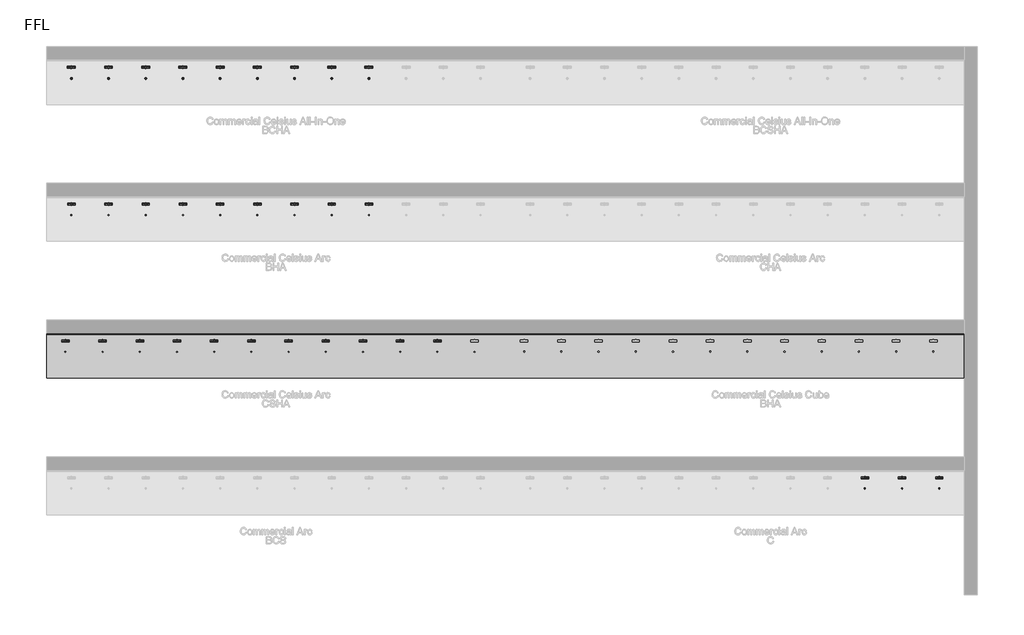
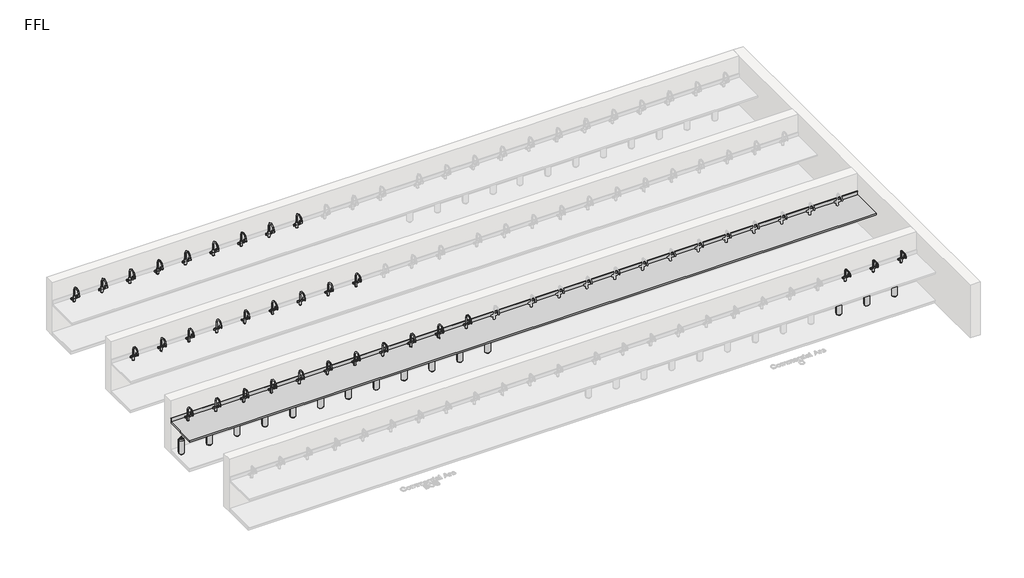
# One storey, part 2 of 9: 64 flow terminals, 1 furniture element.
"""IFC4 building model written with IfcOpenShell, lengths in millimetres."""

from ifc_helpers import new_model, si_unit, frame, origin, place, context, project, spatial, polyline, circle_curve, transform, mapped, element, save
from ifc_brep_helpers import plane_surface, revolved_surface, advanced_brep
from components import flow_terminal_100_people_nickel_0dc622b1, bright_chrome_d1e259f6, bright_chrome_ca6152f3, co2_gas_cylinder_20234e14, bright_chrome_d5fbbf34

model = new_model("IFC4")

# Units and contexts
model_context = context("Model", 3, world=origin())
ifc_project = project(units=[si_unit("LENGTHUNIT", "METRE", prefix="MILLI")], contexts=[model_context])

# Site, building, storey
site = spatial("IfcSite", under=ifc_project)
building = spatial("IfcBuilding", under=site)
storey = spatial("IfcBuildingStorey", under=building, Name="FFL", Elevation=0.0)

# Flow terminals
placement = place(None, origin())
flow_terminal_100_people_nickel_shape = flow_terminal_100_people_nickel_0dc622b1(model_context)
element("IfcFlowTerminal", 1, ObjectType="PlumFixt_Zip Commercial_Celsius Arc_CSHA : 100 People - Bright Chrome", at=placement, inside=storey, context=model_context, shape_type="MappedRepresentation", body=[
    mapped(flow_terminal_100_people_nickel_shape, transform((-6590.7352929, 2062.7393304, 0.0), x_axis=(1.0, 0.0, 0.0), y_axis=(0.0, 1.0, 0.0), z_axis=(0.0, 0.0, 1.0))),
])
element("IfcFlowTerminal", 2, ObjectType="PlumFixt_Zip Commercial_Celsius Arc_CSHA : 100 People - Bright Chrome", at=placement, inside=storey, context=model_context, shape_type="MappedRepresentation", body=[
    mapped(flow_terminal_100_people_nickel_shape, transform((-3590.7352929, 2062.7393304, 0.0), x_axis=(1.0, 0.0, 0.0), y_axis=(0.0, 1.0, 0.0), z_axis=(0.0, 0.0, 1.0))),
])
element("IfcFlowTerminal", 3, ObjectType="PlumFixt_Zip Commercial_Celsius Arc_CSHA : 100 People - Brushed Chrome", at=placement, inside=storey, context=model_context, shape_type="MappedRepresentation", body=[
    mapped(flow_terminal_100_people_nickel_shape, transform((-5840.7352929, 2062.7393304, 0.0), x_axis=(1.0, 0.0, 0.0), y_axis=(0.0, 1.0, 0.0), z_axis=(0.0, 0.0, 1.0))),
])
element("IfcFlowTerminal", 4, ObjectType="PlumFixt_Zip Commercial_Celsius Arc_CSHA : 100 People - Brushed Gold", at=placement, inside=storey, context=model_context, shape_type="MappedRepresentation", body=[
    mapped(flow_terminal_100_people_nickel_shape, transform((-5090.7352929, 2062.7393304, 0.0), x_axis=(1.0, 0.0, 0.0), y_axis=(0.0, 1.0, 0.0), z_axis=(0.0, 0.0, 1.0))),
])
element("IfcFlowTerminal", 5, ObjectType="PlumFixt_Zip Commercial_Celsius Arc_CSHA : 100 People - Brushed Nickel", at=placement, inside=storey, context=model_context, shape_type="MappedRepresentation", body=[
    mapped(flow_terminal_100_people_nickel_shape, transform((-4340.7352929, 2062.7393304, 0.0), x_axis=(1.0, 0.0, 0.0), y_axis=(0.0, 1.0, 0.0), z_axis=(0.0, 0.0, 1.0))),
])
element("IfcFlowTerminal", 6, ObjectType="PlumFixt_Zip Commercial_Celsius Arc_CSHA : 100 People - Gloss Black", at=placement, inside=storey, context=model_context, shape_type="MappedRepresentation", body=[
    mapped(flow_terminal_100_people_nickel_shape, transform((-2840.7352929, 2062.7393304, 0.0), x_axis=(1.0, 0.0, 0.0), y_axis=(0.0, 1.0, 0.0), z_axis=(0.0, 0.0, 1.0))),
])
element("IfcFlowTerminal", 7, ObjectType="PlumFixt_Zip Commercial_Celsius Arc_BHA : 100 People - Gold", at=placement, inside=storey, context=model_context, shape_type="MappedRepresentation", body=[
    mapped(flow_terminal_100_people_nickel_shape, transform((-1970.7352929, 4822.7393304, 0.0), x_axis=(1.0, 0.0, 0.0), y_axis=(0.0, 1.0, 0.0), z_axis=(0.0, 0.0, 1.0))),
])
element("IfcFlowTerminal", 8, ObjectType="PlumFixt_Zip Commercial_Celsius Arc_CSHA : 100 People - Gold", at=placement, inside=storey, context=model_context, shape_type="MappedRepresentation", body=[
    mapped(flow_terminal_100_people_nickel_shape, transform((-2090.7352929, 2062.7393304, 0.0), x_axis=(1.0, 0.0, 0.0), y_axis=(0.0, 1.0, 0.0), z_axis=(0.0, 0.0, 1.0))),
])
element("IfcFlowTerminal", 9, ObjectType="PlumFixt_Zip Commercial_Celsius Arc_BHA : 100 People - Gunmetal", at=placement, inside=storey, context=model_context, shape_type="MappedRepresentation", body=[
    mapped(flow_terminal_100_people_nickel_shape, transform((-1220.7352929, 4822.7393304, 0.0), x_axis=(1.0, 0.0, 0.0), y_axis=(0.0, 1.0, 0.0), z_axis=(0.0, 0.0, 1.0))),
])
element("IfcFlowTerminal", 10, ObjectType="PlumFixt_Zip Commercial_Celsius Arc_CSHA : 100 People - Gunmetal", at=placement, inside=storey, context=model_context, shape_type="MappedRepresentation", body=[
    mapped(flow_terminal_100_people_nickel_shape, transform((-1340.7352929, 2062.7393304, 0.0), x_axis=(1.0, 0.0, 0.0), y_axis=(0.0, 1.0, 0.0), z_axis=(0.0, 0.0, 1.0))),
])
element("IfcFlowTerminal", 11, ObjectType="PlumFixt_Zip Commercial_Celsius Arc_BHA : 100 People - Matte Black", at=placement, inside=storey, context=model_context, shape_type="MappedRepresentation", body=[
    mapped(flow_terminal_100_people_nickel_shape, transform((-470.7352929, 4822.7393304, 0.0), x_axis=(1.0, 0.0, 0.0), y_axis=(0.0, 1.0, 0.0), z_axis=(0.0, 0.0, 1.0))),
])
element("IfcFlowTerminal", 12, ObjectType="PlumFixt_Zip Commercial_Celsius Arc_CSHA : 100 People - Matte Black", at=placement, inside=storey, context=model_context, shape_type="MappedRepresentation", body=[
    mapped(flow_terminal_100_people_nickel_shape, transform((-590.7352929, 2062.7393304, 0.0), x_axis=(1.0, 0.0, 0.0), y_axis=(0.0, 1.0, 0.0), z_axis=(0.0, 0.0, 1.0))),
])
element("IfcFlowTerminal", 13, ObjectType="PlumFixt_Zip Commercial_Celsius Arc_CSHA : 100 People - Nickel", at=placement, inside=storey, context=model_context, shape_type="MappedRepresentation", body=[
    mapped(flow_terminal_100_people_nickel_shape, transform((159.2647071, 2062.7393304, 0.0), x_axis=(1.0, 0.0, 0.0), y_axis=(0.0, 1.0, 0.0), z_axis=(0.0, 0.0, 1.0))),
])
element("IfcFlowTerminal", 14, ObjectType="PlumFixt_Zip Commercial_Celsius Arc_CSHA : 100 People - Platinum", at=placement, inside=storey, context=model_context, shape_type="MappedRepresentation", body=[
    mapped(flow_terminal_100_people_nickel_shape, transform((909.2647071, 2062.7393304, 0.0), x_axis=(1.0, 0.0, 0.0), y_axis=(0.0, 1.0, 0.0), z_axis=(0.0, 0.0, 1.0))),
])
element("IfcFlowTerminal", 15, ObjectType="PlumFixt_Zip Commercial_Celsius Cube_CSHA : 100 People - Platinum", at=placement, inside=storey, context=model_context, shape_type="MappedRepresentation", body=[
    mapped(flow_terminal_100_people_nickel_shape, transform((10279.2647071, -697.2606696, 0.0), x_axis=(1.0, 0.0, 0.0), y_axis=(0.0, 1.0, 0.0), z_axis=(0.0, 0.0, 1.0))),
])
element("IfcFlowTerminal", 16, ObjectType="PlumFixt_Zip Commercial_Celsius Arc_CSHA : 100 People - Rose Gold", at=placement, inside=storey, context=model_context, shape_type="MappedRepresentation", body=[
    mapped(flow_terminal_100_people_nickel_shape, transform((1659.2647071, 2062.7393304, 0.0), x_axis=(1.0, 0.0, 0.0), y_axis=(0.0, 1.0, 0.0), z_axis=(0.0, 0.0, 1.0))),
])
element("IfcFlowTerminal", 17, ObjectType="PlumFixt_Zip Commercial_Celsius Cube_CSHA : 100 People - Rose Gold", at=placement, inside=storey, context=model_context, shape_type="MappedRepresentation", body=[
    mapped(flow_terminal_100_people_nickel_shape, transform((11029.2647071, -697.2606696, 0.0), x_axis=(1.0, 0.0, 0.0), y_axis=(0.0, 1.0, 0.0), z_axis=(0.0, 0.0, 1.0))),
])
bright_chrome_shape = bright_chrome_d1e259f6(model_context)
element("IfcFlowTerminal", 18, ObjectType="z_PlumFixt_Zip_Celsius All-In-One : Bright Chrome", at=placement, inside=storey, context=model_context, shape_type="MappedRepresentation", body=[
    mapped(bright_chrome_shape, transform((-6470.7352929, 7621.7393304, 900.0), x_axis=(1.0, 0.0, 0.0), y_axis=(0.0, 1.0, 0.0), z_axis=(0.0, 0.0, 1.0))),
])
bright_chrome_2_shape = bright_chrome_ca6152f3(model_context)
element("IfcFlowTerminal", 19, ObjectType="z_PlumFixt_Zip_Celsius Arc : Bright Chrome", at=placement, inside=storey, context=model_context, shape_type="MappedRepresentation", body=[
    mapped(bright_chrome_2_shape, transform((-6470.7352929, 4849.4893304, 900.0), x_axis=(1.0, 0.0, 0.0), y_axis=(0.0, 1.0, 0.0), z_axis=(0.0, 0.0, 1.0))),
])
element("IfcFlowTerminal", 20, ObjectType="z_PlumFixt_Zip_Celsius Arc : Bright Chrome", at=placement, inside=storey, context=model_context, shape_type="MappedRepresentation", body=[
    mapped(bright_chrome_2_shape, transform((-6590.7352929, 2089.4893304, 900.0), x_axis=(1.0, 0.0, 0.0), y_axis=(0.0, 1.0, 0.0), z_axis=(0.0, 0.0, 1.0))),
])
element("IfcFlowTerminal", 21, ObjectType="z_PlumFixt_Zip_Celsius Arc : Bright Chrome", at=placement, inside=storey, context=model_context, shape_type="MappedRepresentation", body=[
    mapped(bright_chrome_2_shape, transform((-3590.7352929, 2089.4893304, 900.0), x_axis=(1.0, 0.0, 0.0), y_axis=(0.0, 1.0, 0.0), z_axis=(0.0, 0.0, 1.0))),
])
element("IfcFlowTerminal", 22, ObjectType="z_PlumFixt_Zip_Celsius All-In-One : Brushed Chrome", at=placement, inside=storey, context=model_context, shape_type="MappedRepresentation", body=[
    mapped(bright_chrome_shape, transform((-5720.7352929, 7621.7393304, 900.0), x_axis=(1.0, 0.0, 0.0), y_axis=(0.0, 1.0, 0.0), z_axis=(0.0, 0.0, 1.0))),
])
element("IfcFlowTerminal", 23, ObjectType="z_PlumFixt_Zip_Celsius Arc : Brushed Chrome", at=placement, inside=storey, context=model_context, shape_type="MappedRepresentation", body=[
    mapped(bright_chrome_2_shape, transform((-5720.7352929, 4849.4893304, 900.0), x_axis=(1.0, 0.0, 0.0), y_axis=(0.0, 1.0, 0.0), z_axis=(0.0, 0.0, 1.0))),
])
element("IfcFlowTerminal", 24, ObjectType="z_PlumFixt_Zip_Celsius Arc : Brushed Chrome", at=placement, inside=storey, context=model_context, shape_type="MappedRepresentation", body=[
    mapped(bright_chrome_2_shape, transform((-5840.7352929, 2089.4893304, 900.0), x_axis=(1.0, 0.0, 0.0), y_axis=(0.0, 1.0, 0.0), z_axis=(0.0, 0.0, 1.0))),
])
element("IfcFlowTerminal", 25, ObjectType="z_PlumFixt_Zip_Celsius All-In-One : Brushed Gold", at=placement, inside=storey, context=model_context, shape_type="MappedRepresentation", body=[
    mapped(bright_chrome_shape, transform((-4970.7352929, 7621.7393304, 900.0), x_axis=(1.0, 0.0, 0.0), y_axis=(0.0, 1.0, 0.0), z_axis=(0.0, 0.0, 1.0))),
])
element("IfcFlowTerminal", 26, ObjectType="z_PlumFixt_Zip_Celsius Arc : Brushed Gold", at=placement, inside=storey, context=model_context, shape_type="MappedRepresentation", body=[
    mapped(bright_chrome_2_shape, transform((-4970.7352929, 4849.4893304, 900.0), x_axis=(1.0, 0.0, 0.0), y_axis=(0.0, 1.0, 0.0), z_axis=(0.0, 0.0, 1.0))),
])
element("IfcFlowTerminal", 27, ObjectType="z_PlumFixt_Zip_Celsius Arc : Brushed Gold", at=placement, inside=storey, context=model_context, shape_type="MappedRepresentation", body=[
    mapped(bright_chrome_2_shape, transform((-5090.7352929, 2089.4893304, 900.0), x_axis=(1.0, 0.0, 0.0), y_axis=(0.0, 1.0, 0.0), z_axis=(0.0, 0.0, 1.0))),
])
element("IfcFlowTerminal", 28, ObjectType="z_PlumFixt_Zip_Celsius All-In-One : Brushed Nickel", at=placement, inside=storey, context=model_context, shape_type="MappedRepresentation", body=[
    mapped(bright_chrome_shape, transform((-4220.7352929, 7621.7393304, 900.0), x_axis=(1.0, 0.0, 0.0), y_axis=(0.0, 1.0, 0.0), z_axis=(0.0, 0.0, 1.0))),
])
element("IfcFlowTerminal", 29, ObjectType="z_PlumFixt_Zip_Celsius Arc : Brushed Nickel", at=placement, inside=storey, context=model_context, shape_type="MappedRepresentation", body=[
    mapped(bright_chrome_2_shape, transform((-4220.7352929, 4849.4893304, 900.0), x_axis=(1.0, 0.0, 0.0), y_axis=(0.0, 1.0, 0.0), z_axis=(0.0, 0.0, 1.0))),
])
element("IfcFlowTerminal", 30, ObjectType="z_PlumFixt_Zip_Celsius Arc : Brushed Nickel", at=placement, inside=storey, context=model_context, shape_type="MappedRepresentation", body=[
    mapped(bright_chrome_2_shape, transform((-4340.7352929, 2089.4893304, 900.0), x_axis=(1.0, 0.0, 0.0), y_axis=(0.0, 1.0, 0.0), z_axis=(0.0, 0.0, 1.0))),
])
element("IfcFlowTerminal", 31, ObjectType="z_PlumFixt_Zip_Celsius All-In-One : Brushed Rose Gold", at=placement, inside=storey, context=model_context, shape_type="MappedRepresentation", body=[
    mapped(bright_chrome_shape, transform((-3470.7352929, 7621.7393304, 900.0), x_axis=(1.0, 0.0, 0.0), y_axis=(0.0, 1.0, 0.0), z_axis=(0.0, 0.0, 1.0))),
])
element("IfcFlowTerminal", 32, ObjectType="z_PlumFixt_Zip_Celsius Arc : Brushed Rose Gold", at=placement, inside=storey, context=model_context, shape_type="MappedRepresentation", body=[
    mapped(bright_chrome_2_shape, transform((-3470.7352929, 4849.4893304, 900.0), x_axis=(1.0, 0.0, 0.0), y_axis=(0.0, 1.0, 0.0), z_axis=(0.0, 0.0, 1.0))),
])
co2_gas_cylinder_shape = co2_gas_cylinder_20234e14(model_context)
element("IfcFlowTerminal", 33, ObjectType="z_PlumFixt_Zip_CO2 Gas Cylinder : CO2 Gas Cylinder", at=placement, inside=storey, context=model_context, shape_type="MappedRepresentation", body=[
    mapped(co2_gas_cylinder_shape, transform((-6828.7352929, 1983.2393304, 100.0), x_axis=(-1.0, 0.0, 0.0), y_axis=(0.0, -1.0, 0.0), z_axis=(0.0, 0.0, 1.0))),
])
element("IfcFlowTerminal", 34, ObjectType="z_PlumFixt_Zip_CO2 Gas Cylinder : CO2 Gas Cylinder", at=placement, inside=storey, context=model_context, shape_type="MappedRepresentation", body=[
    mapped(co2_gas_cylinder_shape, transform((-6078.7352929, 1983.2393304, 100.0), x_axis=(-1.0, 0.0, 0.0), y_axis=(0.0, -1.0, 0.0), z_axis=(0.0, 0.0, 1.0))),
])
element("IfcFlowTerminal", 35, ObjectType="z_PlumFixt_Zip_CO2 Gas Cylinder : CO2 Gas Cylinder", at=placement, inside=storey, context=model_context, shape_type="MappedRepresentation", body=[
    mapped(co2_gas_cylinder_shape, transform((-5328.7352929, 1983.2393304, 100.0), x_axis=(-1.0, 0.0, 0.0), y_axis=(0.0, -1.0, 0.0), z_axis=(0.0, 0.0, 1.0))),
])
element("IfcFlowTerminal", 36, ObjectType="z_PlumFixt_Zip_CO2 Gas Cylinder : CO2 Gas Cylinder", at=placement, inside=storey, context=model_context, shape_type="MappedRepresentation", body=[
    mapped(co2_gas_cylinder_shape, transform((-4578.7352929, 1983.2393304, 100.0), x_axis=(-1.0, 0.0, 0.0), y_axis=(0.0, -1.0, 0.0), z_axis=(0.0, 0.0, 1.0))),
])
element("IfcFlowTerminal", 37, ObjectType="z_PlumFixt_Zip_CO2 Gas Cylinder : CO2 Gas Cylinder", at=placement, inside=storey, context=model_context, shape_type="MappedRepresentation", body=[
    mapped(co2_gas_cylinder_shape, transform((-3828.7352929, 1983.2393304, 100.0), x_axis=(-1.0, 0.0, 0.0), y_axis=(0.0, -1.0, 0.0), z_axis=(0.0, 0.0, 1.0))),
])
element("IfcFlowTerminal", 38, ObjectType="z_PlumFixt_Zip_CO2 Gas Cylinder : CO2 Gas Cylinder", at=placement, inside=storey, context=model_context, shape_type="MappedRepresentation", body=[
    mapped(co2_gas_cylinder_shape, transform((-3078.7352929, 1983.2393304, 100.0), x_axis=(-1.0, 0.0, 0.0), y_axis=(0.0, -1.0, 0.0), z_axis=(0.0, 0.0, 1.0))),
])
element("IfcFlowTerminal", 39, ObjectType="z_PlumFixt_Zip_CO2 Gas Cylinder : CO2 Gas Cylinder", at=placement, inside=storey, context=model_context, shape_type="MappedRepresentation", body=[
    mapped(co2_gas_cylinder_shape, transform((-2328.7352929, 1983.2393304, 100.0), x_axis=(-1.0, 0.0, 0.0), y_axis=(0.0, -1.0, 0.0), z_axis=(0.0, 0.0, 1.0))),
])
element("IfcFlowTerminal", 40, ObjectType="z_PlumFixt_Zip_CO2 Gas Cylinder : CO2 Gas Cylinder", at=placement, inside=storey, context=model_context, shape_type="MappedRepresentation", body=[
    mapped(co2_gas_cylinder_shape, transform((-1578.7352929, 1983.2393304, 100.0), x_axis=(-1.0, 0.0, 0.0), y_axis=(0.0, -1.0, 0.0), z_axis=(0.0, 0.0, 1.0))),
])
element("IfcFlowTerminal", 41, ObjectType="z_PlumFixt_Zip_CO2 Gas Cylinder : CO2 Gas Cylinder", at=placement, inside=storey, context=model_context, shape_type="MappedRepresentation", body=[
    mapped(co2_gas_cylinder_shape, transform((-828.7352929, 1983.2393304, 100.0), x_axis=(-1.0, 0.0, 0.0), y_axis=(0.0, -1.0, 0.0), z_axis=(0.0, 0.0, 1.0))),
])
element("IfcFlowTerminal", 42, ObjectType="z_PlumFixt_Zip_CO2 Gas Cylinder : CO2 Gas Cylinder", at=placement, inside=storey, context=model_context, shape_type="MappedRepresentation", body=[
    mapped(co2_gas_cylinder_shape, transform((-78.7352929, 1983.2393304, 100.0), x_axis=(-1.0, 0.0, 0.0), y_axis=(0.0, -1.0, 0.0), z_axis=(0.0, 0.0, 1.0))),
])
element("IfcFlowTerminal", 43, ObjectType="z_PlumFixt_Zip_CO2 Gas Cylinder : CO2 Gas Cylinder", at=placement, inside=storey, context=model_context, shape_type="MappedRepresentation", body=[
    mapped(co2_gas_cylinder_shape, transform((671.2647071, 1983.2393304, 100.0), x_axis=(-1.0, 0.0, 0.0), y_axis=(0.0, -1.0, 0.0), z_axis=(0.0, 0.0, 1.0))),
])
element("IfcFlowTerminal", 44, ObjectType="z_PlumFixt_Zip_CO2 Gas Cylinder : CO2 Gas Cylinder", at=placement, inside=storey, context=model_context, shape_type="MappedRepresentation", body=[
    mapped(co2_gas_cylinder_shape, transform((1421.2647071, 1983.2393304, 100.0), x_axis=(-1.0, 0.0, 0.0), y_axis=(0.0, -1.0, 0.0), z_axis=(0.0, 0.0, 1.0))),
])
element("IfcFlowTerminal", 45, ObjectType="z_PlumFixt_Zip_CO2 Gas Cylinder : CO2 Gas Cylinder", at=placement, inside=storey, context=model_context, shape_type="MappedRepresentation", body=[
    mapped(co2_gas_cylinder_shape, transform((9291.2647071, -776.7606696, 100.0), x_axis=(-1.0, 0.0, 0.0), y_axis=(0.0, -1.0, 0.0), z_axis=(0.0, 0.0, 1.0))),
])
element("IfcFlowTerminal", 46, ObjectType="z_PlumFixt_Zip_CO2 Gas Cylinder : CO2 Gas Cylinder", at=placement, inside=storey, context=model_context, shape_type="MappedRepresentation", body=[
    mapped(co2_gas_cylinder_shape, transform((10041.2647071, -776.7606696, 100.0), x_axis=(-1.0, 0.0, 0.0), y_axis=(0.0, -1.0, 0.0), z_axis=(0.0, 0.0, 1.0))),
])
element("IfcFlowTerminal", 47, ObjectType="z_PlumFixt_Zip_CO2 Gas Cylinder : CO2 Gas Cylinder", at=placement, inside=storey, context=model_context, shape_type="MappedRepresentation", body=[
    mapped(co2_gas_cylinder_shape, transform((10791.2647071, -776.7606696, 100.0), x_axis=(-1.0, 0.0, 0.0), y_axis=(0.0, -1.0, 0.0), z_axis=(0.0, 0.0, 1.0))),
])
element("IfcFlowTerminal", 48, ObjectType="z_PlumFixt_Zip_Celsius All-In-One : Gloss Black", at=placement, inside=storey, context=model_context, shape_type="MappedRepresentation", body=[
    mapped(bright_chrome_shape, transform((-2720.7352929, 7621.7393304, 900.0), x_axis=(1.0, 0.0, 0.0), y_axis=(0.0, 1.0, 0.0), z_axis=(0.0, 0.0, 1.0))),
])
element("IfcFlowTerminal", 49, ObjectType="z_PlumFixt_Zip_Celsius Arc : Gloss Black", at=placement, inside=storey, context=model_context, shape_type="MappedRepresentation", body=[
    mapped(bright_chrome_2_shape, transform((-2720.7352929, 4849.4893304, 900.0), x_axis=(1.0, 0.0, 0.0), y_axis=(0.0, 1.0, 0.0), z_axis=(0.0, 0.0, 1.0))),
])
element("IfcFlowTerminal", 50, ObjectType="z_PlumFixt_Zip_Celsius Arc : Gloss Black", at=placement, inside=storey, context=model_context, shape_type="MappedRepresentation", body=[
    mapped(bright_chrome_2_shape, transform((-2840.7352929, 2089.4893304, 900.0), x_axis=(1.0, 0.0, 0.0), y_axis=(0.0, 1.0, 0.0), z_axis=(0.0, 0.0, 1.0))),
])
element("IfcFlowTerminal", 51, ObjectType="z_PlumFixt_Zip_Celsius All-In-One : Gold", at=placement, inside=storey, context=model_context, shape_type="MappedRepresentation", body=[
    mapped(bright_chrome_shape, transform((-1970.7352929, 7621.7393304, 900.0), x_axis=(1.0, 0.0, 0.0), y_axis=(0.0, 1.0, 0.0), z_axis=(0.0, 0.0, 1.0))),
])
element("IfcFlowTerminal", 52, ObjectType="z_PlumFixt_Zip_Celsius Arc : Gold", at=placement, inside=storey, context=model_context, shape_type="MappedRepresentation", body=[
    mapped(bright_chrome_2_shape, transform((-1970.7352929, 4849.4893304, 900.0), x_axis=(1.0, 0.0, 0.0), y_axis=(0.0, 1.0, 0.0), z_axis=(0.0, 0.0, 1.0))),
])
element("IfcFlowTerminal", 53, ObjectType="z_PlumFixt_Zip_Celsius Arc : Gold", at=placement, inside=storey, context=model_context, shape_type="MappedRepresentation", body=[
    mapped(bright_chrome_2_shape, transform((-2090.7352929, 2089.4893304, 900.0), x_axis=(1.0, 0.0, 0.0), y_axis=(0.0, 1.0, 0.0), z_axis=(0.0, 0.0, 1.0))),
])
element("IfcFlowTerminal", 54, ObjectType="z_PlumFixt_Zip_Celsius All-In-One : Gunmetal", at=placement, inside=storey, context=model_context, shape_type="MappedRepresentation", body=[
    mapped(bright_chrome_shape, transform((-1220.7352929, 7621.7393304, 900.0), x_axis=(1.0, 0.0, 0.0), y_axis=(0.0, 1.0, 0.0), z_axis=(0.0, 0.0, 1.0))),
])
element("IfcFlowTerminal", 55, ObjectType="z_PlumFixt_Zip_Celsius Arc : Gunmetal", at=placement, inside=storey, context=model_context, shape_type="MappedRepresentation", body=[
    mapped(bright_chrome_2_shape, transform((-1220.7352929, 4849.4893304, 900.0), x_axis=(1.0, 0.0, 0.0), y_axis=(0.0, 1.0, 0.0), z_axis=(0.0, 0.0, 1.0))),
])
element("IfcFlowTerminal", 56, ObjectType="z_PlumFixt_Zip_Celsius Arc : Gunmetal", at=placement, inside=storey, context=model_context, shape_type="MappedRepresentation", body=[
    mapped(bright_chrome_2_shape, transform((-1340.7352929, 2089.4893304, 900.0), x_axis=(1.0, 0.0, 0.0), y_axis=(0.0, 1.0, 0.0), z_axis=(0.0, 0.0, 1.0))),
])
element("IfcFlowTerminal", 57, ObjectType="z_PlumFixt_Zip_Celsius All-In-One : Matte Black", at=placement, inside=storey, context=model_context, shape_type="MappedRepresentation", body=[
    mapped(bright_chrome_shape, transform((-470.7352929, 7621.7393304, 900.0), x_axis=(1.0, 0.0, 0.0), y_axis=(0.0, 1.0, 0.0), z_axis=(0.0, 0.0, 1.0))),
])
element("IfcFlowTerminal", 58, ObjectType="z_PlumFixt_Zip_Celsius Arc : Matte Black", at=placement, inside=storey, context=model_context, shape_type="MappedRepresentation", body=[
    mapped(bright_chrome_2_shape, transform((-470.7352929, 4849.4893304, 900.0), x_axis=(1.0, 0.0, 0.0), y_axis=(0.0, 1.0, 0.0), z_axis=(0.0, 0.0, 1.0))),
])
element("IfcFlowTerminal", 59, ObjectType="z_PlumFixt_Zip_Celsius Arc : Matte Black", at=placement, inside=storey, context=model_context, shape_type="MappedRepresentation", body=[
    mapped(bright_chrome_2_shape, transform((-590.7352929, 2089.4893304, 900.0), x_axis=(1.0, 0.0, 0.0), y_axis=(0.0, 1.0, 0.0), z_axis=(0.0, 0.0, 1.0))),
])
element("IfcFlowTerminal", 60, ObjectType="z_PlumFixt_Zip_Celsius Arc : Nickel", at=placement, inside=storey, context=model_context, shape_type="MappedRepresentation", body=[
    mapped(bright_chrome_2_shape, transform((159.2647071, 2089.4893304, 900.0), x_axis=(1.0, 0.0, 0.0), y_axis=(0.0, 1.0, 0.0), z_axis=(0.0, 0.0, 1.0))),
])
bright_chrome_3_shape = bright_chrome_d5fbbf34(model_context)
element("IfcFlowTerminal", 61, ObjectType="z_PlumFixt_Zip_Celsius Cube : Nickel", at=placement, inside=storey, context=model_context, shape_type="MappedRepresentation", body=[
    mapped(bright_chrome_3_shape, transform((9529.2647071, -670.5106696, 900.0), x_axis=(1.0, 0.0, 0.0), y_axis=(0.0, 1.0, 0.0), z_axis=(0.0, 0.0, 1.0))),
])
element("IfcFlowTerminal", 62, ObjectType="z_PlumFixt_Zip_Celsius Arc : Platinum", at=placement, inside=storey, context=model_context, shape_type="MappedRepresentation", body=[
    mapped(bright_chrome_2_shape, transform((909.2647071, 2089.4893304, 900.0), x_axis=(1.0, 0.0, 0.0), y_axis=(0.0, 1.0, 0.0), z_axis=(0.0, 0.0, 1.0))),
])
element("IfcFlowTerminal", 63, ObjectType="z_PlumFixt_Zip_Celsius Cube : Platinum", at=placement, inside=storey, context=model_context, shape_type="MappedRepresentation", body=[
    mapped(bright_chrome_3_shape, transform((10279.2647071, -670.5106696, 900.0), x_axis=(1.0, 0.0, 0.0), y_axis=(0.0, 1.0, 0.0), z_axis=(0.0, 0.0, 1.0))),
])
element("IfcFlowTerminal", 64, ObjectType="z_PlumFixt_Zip_Celsius Cube : Rose Gold", at=placement, inside=storey, context=model_context, shape_type="MappedRepresentation", body=[
    mapped(bright_chrome_3_shape, transform((11029.2647071, -670.5106696, 900.0), x_axis=(1.0, 0.0, 0.0), y_axis=(0.0, 1.0, 0.0), z_axis=(0.0, 0.0, 1.0))),
])

# Furniture
element("IfcFurniture", 65, ObjectType="Counter Top : 900mm Depth", at=placement, inside=storey, context=model_context, shape_type="AdvancedBrep", body=[
    advanced_brep(
    [(-6969.7352929, 1428.2393304, 900.0), (11530.2647071, 1428.2393304, 900.0), (11530.2647071, 2309.1893304, 900.0), (-6969.7352929, 2309.1893304, 900.0), (10885.7647071, 2178.2393304, 900.0), (10934.7647071, 2178.2393304, 900.0), (10135.7647071, 2178.2393304, 900.0), (10184.7647071, 2178.2393304, 900.0), (9385.7647071, 2178.2393304, 900.0), (9434.7647071, 2178.2393304, 900.0), (8635.7647071, 2178.2393304, 900.0), (8684.7647071, 2178.2393304, 900.0), (7885.7647071, 2178.2393304, 900.0), (7934.7647071, 2178.2393304, 900.0), (7135.7647071, 2178.2393304, 900.0), (7184.7647071, 2178.2393304, 900.0), (6385.7647071, 2178.2393304, 900.0), (6434.7647071, 2178.2393304, 900.0), (5635.7647071, 2178.2393304, 900.0), (5684.7647071, 2178.2393304, 900.0), (4885.7647071, 2178.2393304, 900.0), (4934.7647071, 2178.2393304, 900.0), (4135.7647071, 2178.2393304, 900.0), (4184.7647071, 2178.2393304, 900.0), (3385.7647071, 2178.2393304, 900.0), (3434.7647071, 2178.2393304, 900.0), (2635.7647071, 2178.2393304, 900.0), (2684.7647071, 2178.2393304, 900.0), (1635.7647071, 2178.2393304, 900.0), (1684.7647071, 2178.2393304, 900.0), (885.7647071, 2178.2393304, 900.0), (934.7647071, 2178.2393304, 900.0), (135.7647071, 2178.2393304, 900.0), (184.7647071, 2178.2393304, 900.0), (-614.2352929, 2178.2393304, 900.0), (-565.2352929, 2178.2393304, 900.0), (-1364.2352929, 2178.2393304, 900.0), (-1315.2352929, 2178.2393304, 900.0), (-2114.2352929, 2178.2393304, 900.0), (-2065.2352929, 2178.2393304, 900.0), (-2864.2352929, 2178.2393304, 900.0), (-2815.2352929, 2178.2393304, 900.0), (-6614.2352929, 2178.2393304, 900.0), (-6565.2352929, 2178.2393304, 900.0), (-5864.2352929, 2178.2393304, 900.0), (-5815.2352929, 2178.2393304, 900.0), (-5114.2352929, 2178.2393304, 900.0), (-5065.2352929, 2178.2393304, 900.0), (-4364.2352929, 2178.2393304, 900.0), (-4315.2352929, 2178.2393304, 900.0), (-3614.2352929, 2178.2393304, 900.0), (-3565.2352929, 2178.2393304, 900.0), (11530.2647071, 2328.2393304, 860.0), (11530.2647071, 1428.2393304, 860.0), (-6969.7352929, 1428.2393304, 860.0), (-6969.7352929, 2328.2393304, 860.0), (10934.7647071, 2178.2393304, 860.0), (10885.7647071, 2178.2393304, 860.0), (10184.7647071, 2178.2393304, 860.0), (10135.7647071, 2178.2393304, 860.0), (9434.7647071, 2178.2393304, 860.0), (9385.7647071, 2178.2393304, 860.0), (8684.7647071, 2178.2393304, 860.0), (8635.7647071, 2178.2393304, 860.0), (7934.7647071, 2178.2393304, 860.0), (7885.7647071, 2178.2393304, 860.0), (7184.7647071, 2178.2393304, 860.0), (7135.7647071, 2178.2393304, 860.0), (6434.7647071, 2178.2393304, 860.0), (6385.7647071, 2178.2393304, 860.0), (5684.7647071, 2178.2393304, 860.0), (5635.7647071, 2178.2393304, 860.0), (4934.7647071, 2178.2393304, 860.0), (4885.7647071, 2178.2393304, 860.0), (4184.7647071, 2178.2393304, 860.0), (4135.7647071, 2178.2393304, 860.0), (3434.7647071, 2178.2393304, 860.0), (3385.7647071, 2178.2393304, 860.0), (2684.7647071, 2178.2393304, 860.0), (2635.7647071, 2178.2393304, 860.0), (1684.7647071, 2178.2393304, 860.0), (1635.7647071, 2178.2393304, 860.0), (934.7647071, 2178.2393304, 860.0), (885.7647071, 2178.2393304, 860.0), (184.7647071, 2178.2393304, 860.0), (135.7647071, 2178.2393304, 860.0), (-565.2352929, 2178.2393304, 860.0), (-614.2352929, 2178.2393304, 860.0), (-1315.2352929, 2178.2393304, 860.0), (-1364.2352929, 2178.2393304, 860.0), (-2065.2352929, 2178.2393304, 860.0), (-2114.2352929, 2178.2393304, 860.0), (-2815.2352929, 2178.2393304, 860.0), (-2864.2352929, 2178.2393304, 860.0), (-6565.2352929, 2178.2393304, 860.0), (-6614.2352929, 2178.2393304, 860.0), (-5815.2352929, 2178.2393304, 860.0), (-5864.2352929, 2178.2393304, 860.0), (-5065.2352929, 2178.2393304, 860.0), (-5114.2352929, 2178.2393304, 860.0), (-4315.2352929, 2178.2393304, 860.0), (-4364.2352929, 2178.2393304, 860.0), (-3565.2352929, 2178.2393304, 860.0), (-3614.2352929, 2178.2393304, 860.0), (-6969.7352929, 2328.2393304, 1001.6), (11530.2647071, 2328.2393304, 1001.6), (-6969.7352929, 2309.1893304, 1001.6), (11530.2647071, 2309.1893304, 1001.6)],
    [
        (0, 1),
        (1, 2),
        (2, 3),
        (3, 0),
        (4, 5, circle_curve(frame((10910.2647071, 2178.2393304, 900.0), z_axis=(0.0, 0.0, -1.0), x_axis=(-1.0, 0.0, 0.0)), 24.5)),
        (5, 4, circle_curve(frame((10910.2647071, 2178.2393304, 900.0), z_axis=(0.0, 0.0, -1.0), x_axis=(-1.0, 0.0, 0.0)), 24.5)),
        (6, 7, circle_curve(frame((10160.2647071, 2178.2393304, 900.0), z_axis=(0.0, 0.0, -1.0), x_axis=(-1.0, 0.0, 0.0)), 24.5)),
        (7, 6, circle_curve(frame((10160.2647071, 2178.2393304, 900.0), z_axis=(0.0, 0.0, -1.0), x_axis=(-1.0, 0.0, 0.0)), 24.5)),
        (8, 9, circle_curve(frame((9410.2647071, 2178.2393304, 900.0), z_axis=(0.0, 0.0, -1.0), x_axis=(-1.0, 0.0, 0.0)), 24.5)),
        (9, 8, circle_curve(frame((9410.2647071, 2178.2393304, 900.0), z_axis=(0.0, 0.0, -1.0), x_axis=(-1.0, 0.0, 0.0)), 24.5)),
        (10, 11, circle_curve(frame((8660.2647071, 2178.2393304, 900.0), z_axis=(0.0, 0.0, -1.0), x_axis=(-1.0, 0.0, 0.0)), 24.5)),
        (11, 10, circle_curve(frame((8660.2647071, 2178.2393304, 900.0), z_axis=(0.0, 0.0, -1.0), x_axis=(-1.0, 0.0, 0.0)), 24.5)),
        (12, 13, circle_curve(frame((7910.2647071, 2178.2393304, 900.0), z_axis=(0.0, 0.0, -1.0), x_axis=(-1.0, 0.0, 0.0)), 24.5)),
        (13, 12, circle_curve(frame((7910.2647071, 2178.2393304, 900.0), z_axis=(0.0, 0.0, -1.0), x_axis=(-1.0, 0.0, 0.0)), 24.5)),
        (14, 15, circle_curve(frame((7160.2647071, 2178.2393304, 900.0), z_axis=(0.0, 0.0, -1.0), x_axis=(-1.0, 0.0, 0.0)), 24.5)),
        (15, 14, circle_curve(frame((7160.2647071, 2178.2393304, 900.0), z_axis=(0.0, 0.0, -1.0), x_axis=(-1.0, 0.0, 0.0)), 24.5)),
        (16, 17, circle_curve(frame((6410.2647071, 2178.2393304, 900.0), z_axis=(0.0, 0.0, -1.0), x_axis=(-1.0, 0.0, 0.0)), 24.5)),
        (17, 16, circle_curve(frame((6410.2647071, 2178.2393304, 900.0), z_axis=(0.0, 0.0, -1.0), x_axis=(-1.0, 0.0, 0.0)), 24.5)),
        (18, 19, circle_curve(frame((5660.2647071, 2178.2393304, 900.0), z_axis=(0.0, 0.0, -1.0), x_axis=(-1.0, 0.0, 0.0)), 24.5)),
        (19, 18, circle_curve(frame((5660.2647071, 2178.2393304, 900.0), z_axis=(0.0, 0.0, -1.0), x_axis=(-1.0, 0.0, 0.0)), 24.5)),
        (20, 21, circle_curve(frame((4910.2647071, 2178.2393304, 900.0), z_axis=(0.0, 0.0, -1.0), x_axis=(-1.0, 0.0, 0.0)), 24.5)),
        (21, 20, circle_curve(frame((4910.2647071, 2178.2393304, 900.0), z_axis=(0.0, 0.0, -1.0), x_axis=(-1.0, 0.0, 0.0)), 24.5)),
        (22, 23, circle_curve(frame((4160.2647071, 2178.2393304, 900.0), z_axis=(0.0, 0.0, -1.0), x_axis=(-1.0, 0.0, 0.0)), 24.5)),
        (23, 22, circle_curve(frame((4160.2647071, 2178.2393304, 900.0), z_axis=(0.0, 0.0, -1.0), x_axis=(-1.0, 0.0, 0.0)), 24.5)),
        (24, 25, circle_curve(frame((3410.2647071, 2178.2393304, 900.0), z_axis=(0.0, 0.0, -1.0), x_axis=(-1.0, 0.0, 0.0)), 24.5)),
        (25, 24, circle_curve(frame((3410.2647071, 2178.2393304, 900.0), z_axis=(0.0, 0.0, -1.0), x_axis=(-1.0, 0.0, 0.0)), 24.5)),
        (26, 27, circle_curve(frame((2660.2647071, 2178.2393304, 900.0), z_axis=(0.0, 0.0, -1.0), x_axis=(-1.0, 0.0, 0.0)), 24.5)),
        (27, 26, circle_curve(frame((2660.2647071, 2178.2393304, 900.0), z_axis=(0.0, 0.0, -1.0), x_axis=(-1.0, 0.0, 0.0)), 24.5)),
        (28, 29, circle_curve(frame((1660.2647071, 2178.2393304, 900.0), z_axis=(0.0, 0.0, -1.0), x_axis=(-1.0, 0.0, 0.0)), 24.5)),
        (29, 28, circle_curve(frame((1660.2647071, 2178.2393304, 900.0), z_axis=(0.0, 0.0, -1.0), x_axis=(-1.0, 0.0, 0.0)), 24.5)),
        (30, 31, circle_curve(frame((910.2647071, 2178.2393304, 900.0), z_axis=(0.0, 0.0, -1.0), x_axis=(-1.0, 0.0, 0.0)), 24.5)),
        (31, 30, circle_curve(frame((910.2647071, 2178.2393304, 900.0), z_axis=(0.0, 0.0, -1.0), x_axis=(-1.0, 0.0, 0.0)), 24.5)),
        (32, 33, circle_curve(frame((160.2647071, 2178.2393304, 900.0), z_axis=(0.0, 0.0, -1.0), x_axis=(-1.0, 0.0, 0.0)), 24.5)),
        (33, 32, circle_curve(frame((160.2647071, 2178.2393304, 900.0), z_axis=(0.0, 0.0, -1.0), x_axis=(-1.0, 0.0, 0.0)), 24.5)),
        (34, 35, circle_curve(frame((-589.7352929, 2178.2393304, 900.0), z_axis=(0.0, 0.0, -1.0), x_axis=(-1.0, 0.0, 0.0)), 24.5)),
        (35, 34, circle_curve(frame((-589.7352929, 2178.2393304, 900.0), z_axis=(0.0, 0.0, -1.0), x_axis=(-1.0, 0.0, 0.0)), 24.5)),
        (36, 37, circle_curve(frame((-1339.7352929, 2178.2393304, 900.0), z_axis=(0.0, 0.0, -1.0), x_axis=(-1.0, 0.0, 0.0)), 24.5)),
        (37, 36, circle_curve(frame((-1339.7352929, 2178.2393304, 900.0), z_axis=(0.0, 0.0, -1.0), x_axis=(-1.0, 0.0, 0.0)), 24.5)),
        (38, 39, circle_curve(frame((-2089.7352929, 2178.2393304, 900.0), z_axis=(0.0, 0.0, -1.0), x_axis=(-1.0, 0.0, 0.0)), 24.5)),
        (39, 38, circle_curve(frame((-2089.7352929, 2178.2393304, 900.0), z_axis=(0.0, 0.0, -1.0), x_axis=(-1.0, 0.0, 0.0)), 24.5)),
        (40, 41, circle_curve(frame((-2839.7352929, 2178.2393304, 900.0), z_axis=(0.0, 0.0, -1.0), x_axis=(-1.0, 0.0, 0.0)), 24.5)),
        (41, 40, circle_curve(frame((-2839.7352929, 2178.2393304, 900.0), z_axis=(0.0, 0.0, -1.0), x_axis=(-1.0, 0.0, 0.0)), 24.5)),
        (42, 43, circle_curve(frame((-6589.7352929, 2178.2393304, 900.0), z_axis=(0.0, 0.0, -1.0), x_axis=(-1.0, 0.0, 0.0)), 24.5)),
        (43, 42, circle_curve(frame((-6589.7352929, 2178.2393304, 900.0), z_axis=(0.0, 0.0, -1.0), x_axis=(-1.0, 0.0, 0.0)), 24.5)),
        (44, 45, circle_curve(frame((-5839.7352929, 2178.2393304, 900.0), z_axis=(0.0, 0.0, -1.0), x_axis=(-1.0, 0.0, 0.0)), 24.5)),
        (45, 44, circle_curve(frame((-5839.7352929, 2178.2393304, 900.0), z_axis=(0.0, 0.0, -1.0), x_axis=(-1.0, 0.0, 0.0)), 24.5)),
        (46, 47, circle_curve(frame((-5089.7352929, 2178.2393304, 900.0), z_axis=(0.0, 0.0, -1.0), x_axis=(-1.0, 0.0, 0.0)), 24.5)),
        (47, 46, circle_curve(frame((-5089.7352929, 2178.2393304, 900.0), z_axis=(0.0, 0.0, -1.0), x_axis=(-1.0, 0.0, 0.0)), 24.5)),
        (48, 49, circle_curve(frame((-4339.7352929, 2178.2393304, 900.0), z_axis=(0.0, 0.0, -1.0), x_axis=(-1.0, 0.0, 0.0)), 24.5)),
        (49, 48, circle_curve(frame((-4339.7352929, 2178.2393304, 900.0), z_axis=(0.0, 0.0, -1.0), x_axis=(-1.0, 0.0, 0.0)), 24.5)),
        (50, 51, circle_curve(frame((-3589.7352929, 2178.2393304, 900.0), z_axis=(0.0, 0.0, -1.0), x_axis=(-1.0, 0.0, 0.0)), 24.5)),
        (51, 50, circle_curve(frame((-3589.7352929, 2178.2393304, 900.0), z_axis=(0.0, 0.0, -1.0), x_axis=(-1.0, 0.0, 0.0)), 24.5)),
        (52, 53),
        (53, 54),
        (54, 55),
        (55, 52),
        (56, 57, circle_curve(frame((10910.2647071, 2178.2393304, 860.0), z_axis=(0.0, 0.0, 1.0), x_axis=(-1.0, 0.0, 0.0)), 24.5)),
        (57, 56, circle_curve(frame((10910.2647071, 2178.2393304, 860.0), z_axis=(0.0, 0.0, 1.0), x_axis=(-1.0, 0.0, 0.0)), 24.5)),
        (58, 59, circle_curve(frame((10160.2647071, 2178.2393304, 860.0), z_axis=(0.0, 0.0, 1.0), x_axis=(-1.0, 0.0, 0.0)), 24.5)),
        (59, 58, circle_curve(frame((10160.2647071, 2178.2393304, 860.0), z_axis=(0.0, 0.0, 1.0), x_axis=(-1.0, 0.0, 0.0)), 24.5)),
        (60, 61, circle_curve(frame((9410.2647071, 2178.2393304, 860.0), z_axis=(0.0, 0.0, 1.0), x_axis=(-1.0, 0.0, 0.0)), 24.5)),
        (61, 60, circle_curve(frame((9410.2647071, 2178.2393304, 860.0), z_axis=(0.0, 0.0, 1.0), x_axis=(-1.0, 0.0, 0.0)), 24.5)),
        (62, 63, circle_curve(frame((8660.2647071, 2178.2393304, 860.0), z_axis=(0.0, 0.0, 1.0), x_axis=(-1.0, 0.0, 0.0)), 24.5)),
        (63, 62, circle_curve(frame((8660.2647071, 2178.2393304, 860.0), z_axis=(0.0, 0.0, 1.0), x_axis=(-1.0, 0.0, 0.0)), 24.5)),
        (64, 65, circle_curve(frame((7910.2647071, 2178.2393304, 860.0), z_axis=(0.0, 0.0, 1.0), x_axis=(-1.0, 0.0, 0.0)), 24.5)),
        (65, 64, circle_curve(frame((7910.2647071, 2178.2393304, 860.0), z_axis=(0.0, 0.0, 1.0), x_axis=(-1.0, 0.0, 0.0)), 24.5)),
        (66, 67, circle_curve(frame((7160.2647071, 2178.2393304, 860.0), z_axis=(0.0, 0.0, 1.0), x_axis=(-1.0, 0.0, 0.0)), 24.5)),
        (67, 66, circle_curve(frame((7160.2647071, 2178.2393304, 860.0), z_axis=(0.0, 0.0, 1.0), x_axis=(-1.0, 0.0, 0.0)), 24.5)),
        (68, 69, circle_curve(frame((6410.2647071, 2178.2393304, 860.0), z_axis=(0.0, 0.0, 1.0), x_axis=(-1.0, 0.0, 0.0)), 24.5)),
        (69, 68, circle_curve(frame((6410.2647071, 2178.2393304, 860.0), z_axis=(0.0, 0.0, 1.0), x_axis=(-1.0, 0.0, 0.0)), 24.5)),
        (70, 71, circle_curve(frame((5660.2647071, 2178.2393304, 860.0), z_axis=(0.0, 0.0, 1.0), x_axis=(-1.0, 0.0, 0.0)), 24.5)),
        (71, 70, circle_curve(frame((5660.2647071, 2178.2393304, 860.0), z_axis=(0.0, 0.0, 1.0), x_axis=(-1.0, 0.0, 0.0)), 24.5)),
        (72, 73, circle_curve(frame((4910.2647071, 2178.2393304, 860.0), z_axis=(0.0, 0.0, 1.0), x_axis=(-1.0, 0.0, 0.0)), 24.5)),
        (73, 72, circle_curve(frame((4910.2647071, 2178.2393304, 860.0), z_axis=(0.0, 0.0, 1.0), x_axis=(-1.0, 0.0, 0.0)), 24.5)),
        (74, 75, circle_curve(frame((4160.2647071, 2178.2393304, 860.0), z_axis=(0.0, 0.0, 1.0), x_axis=(-1.0, 0.0, 0.0)), 24.5)),
        (75, 74, circle_curve(frame((4160.2647071, 2178.2393304, 860.0), z_axis=(0.0, 0.0, 1.0), x_axis=(-1.0, 0.0, 0.0)), 24.5)),
        (76, 77, circle_curve(frame((3410.2647071, 2178.2393304, 860.0), z_axis=(0.0, 0.0, 1.0), x_axis=(-1.0, 0.0, 0.0)), 24.5)),
        (77, 76, circle_curve(frame((3410.2647071, 2178.2393304, 860.0), z_axis=(0.0, 0.0, 1.0), x_axis=(-1.0, 0.0, 0.0)), 24.5)),
        (78, 79, circle_curve(frame((2660.2647071, 2178.2393304, 860.0), z_axis=(0.0, 0.0, 1.0), x_axis=(-1.0, 0.0, 0.0)), 24.5)),
        (79, 78, circle_curve(frame((2660.2647071, 2178.2393304, 860.0), z_axis=(0.0, 0.0, 1.0), x_axis=(-1.0, 0.0, 0.0)), 24.5)),
        (80, 81, circle_curve(frame((1660.2647071, 2178.2393304, 860.0), z_axis=(0.0, 0.0, 1.0), x_axis=(-1.0, 0.0, 0.0)), 24.5)),
        (81, 80, circle_curve(frame((1660.2647071, 2178.2393304, 860.0), z_axis=(0.0, 0.0, 1.0), x_axis=(-1.0, 0.0, 0.0)), 24.5)),
        (82, 83, circle_curve(frame((910.2647071, 2178.2393304, 860.0), z_axis=(0.0, 0.0, 1.0), x_axis=(-1.0, 0.0, 0.0)), 24.5)),
        (83, 82, circle_curve(frame((910.2647071, 2178.2393304, 860.0), z_axis=(0.0, 0.0, 1.0), x_axis=(-1.0, 0.0, 0.0)), 24.5)),
        (84, 85, circle_curve(frame((160.2647071, 2178.2393304, 860.0), z_axis=(0.0, 0.0, 1.0), x_axis=(-1.0, 0.0, 0.0)), 24.5)),
        (85, 84, circle_curve(frame((160.2647071, 2178.2393304, 860.0), z_axis=(0.0, 0.0, 1.0), x_axis=(-1.0, 0.0, 0.0)), 24.5)),
        (86, 87, circle_curve(frame((-589.7352929, 2178.2393304, 860.0), z_axis=(0.0, 0.0, 1.0), x_axis=(-1.0, 0.0, 0.0)), 24.5)),
        (87, 86, circle_curve(frame((-589.7352929, 2178.2393304, 860.0), z_axis=(0.0, 0.0, 1.0), x_axis=(-1.0, 0.0, 0.0)), 24.5)),
        (88, 89, circle_curve(frame((-1339.7352929, 2178.2393304, 860.0), z_axis=(0.0, 0.0, 1.0), x_axis=(-1.0, 0.0, 0.0)), 24.5)),
        (89, 88, circle_curve(frame((-1339.7352929, 2178.2393304, 860.0), z_axis=(0.0, 0.0, 1.0), x_axis=(-1.0, 0.0, 0.0)), 24.5)),
        (90, 91, circle_curve(frame((-2089.7352929, 2178.2393304, 860.0), z_axis=(0.0, 0.0, 1.0), x_axis=(-1.0, 0.0, 0.0)), 24.5)),
        (91, 90, circle_curve(frame((-2089.7352929, 2178.2393304, 860.0), z_axis=(0.0, 0.0, 1.0), x_axis=(-1.0, 0.0, 0.0)), 24.5)),
        (92, 93, circle_curve(frame((-2839.7352929, 2178.2393304, 860.0), z_axis=(0.0, 0.0, 1.0), x_axis=(-1.0, 0.0, 0.0)), 24.5)),
        (93, 92, circle_curve(frame((-2839.7352929, 2178.2393304, 860.0), z_axis=(0.0, 0.0, 1.0), x_axis=(-1.0, 0.0, 0.0)), 24.5)),
        (94, 95, circle_curve(frame((-6589.7352929, 2178.2393304, 860.0), z_axis=(0.0, 0.0, 1.0), x_axis=(-1.0, 0.0, 0.0)), 24.5)),
        (95, 94, circle_curve(frame((-6589.7352929, 2178.2393304, 860.0), z_axis=(0.0, 0.0, 1.0), x_axis=(-1.0, 0.0, 0.0)), 24.5)),
        (96, 97, circle_curve(frame((-5839.7352929, 2178.2393304, 860.0), z_axis=(0.0, 0.0, 1.0), x_axis=(-1.0, 0.0, 0.0)), 24.5)),
        (97, 96, circle_curve(frame((-5839.7352929, 2178.2393304, 860.0), z_axis=(0.0, 0.0, 1.0), x_axis=(-1.0, 0.0, 0.0)), 24.5)),
        (98, 99, circle_curve(frame((-5089.7352929, 2178.2393304, 860.0), z_axis=(0.0, 0.0, 1.0), x_axis=(-1.0, 0.0, 0.0)), 24.5)),
        (99, 98, circle_curve(frame((-5089.7352929, 2178.2393304, 860.0), z_axis=(0.0, 0.0, 1.0), x_axis=(-1.0, 0.0, 0.0)), 24.5)),
        (100, 101, circle_curve(frame((-4339.7352929, 2178.2393304, 860.0), z_axis=(0.0, 0.0, 1.0), x_axis=(-1.0, 0.0, 0.0)), 24.5)),
        (101, 100, circle_curve(frame((-4339.7352929, 2178.2393304, 860.0), z_axis=(0.0, 0.0, 1.0), x_axis=(-1.0, 0.0, 0.0)), 24.5)),
        (102, 103, circle_curve(frame((-3589.7352929, 2178.2393304, 860.0), z_axis=(0.0, 0.0, 1.0), x_axis=(-1.0, 0.0, 0.0)), 24.5)),
        (103, 102, circle_curve(frame((-3589.7352929, 2178.2393304, 860.0), z_axis=(0.0, 0.0, 1.0), x_axis=(-1.0, 0.0, 0.0)), 24.5)),
        (55, 104),
        (104, 105),
        (105, 52),
        (3, 106),
        (106, 104),
        (54, 0),
        (53, 1),
        (105, 107),
        (107, 2),
        (106, 107),
        (56, 5),
        (4, 57),
        (58, 7),
        (6, 59),
        (60, 9),
        (8, 61),
        (62, 11),
        (10, 63),
        (64, 13),
        (12, 65),
        (66, 15),
        (14, 67),
        (68, 17),
        (16, 69),
        (70, 19),
        (18, 71),
        (72, 21),
        (20, 73),
        (74, 23),
        (22, 75),
        (76, 25),
        (24, 77),
        (78, 27),
        (26, 79),
        (80, 29),
        (28, 81),
        (82, 31),
        (30, 83),
        (84, 33),
        (32, 85),
        (86, 35),
        (34, 87),
        (88, 37),
        (36, 89),
        (90, 39),
        (38, 91),
        (92, 41),
        (40, 93),
        (94, 43),
        (42, 95),
        (96, 45),
        (44, 97),
        (98, 47),
        (46, 99),
        (100, 49),
        (48, 101),
        (102, 51),
        (50, 103),
    ],
    [
        plane_surface(frame((-6969.7352929, 2328.2393304, 900.0), z_axis=(0.0, 0.0, 1.0), x_axis=(-1.0, 0.0, 0.0))),
        plane_surface(frame((-6969.7352929, 2328.2393304, 860.0), z_axis=(0.0, 0.0, -1.0), x_axis=(1.0, 0.0, 0.0))),
        plane_surface(frame((11530.2647071, 2328.2393304, 900.0), z_axis=(0.0, 1.0, 0.0), x_axis=(0.0, 0.0, -1.0))),
        plane_surface(frame((-6969.7352929, 2328.2393304, 900.0), z_axis=(-1.0, 0.0, 0.0), x_axis=(0.0, 0.0, -1.0))),
        plane_surface(frame((-6969.7352929, 1428.2393304, 900.0), z_axis=(0.0, -1.0, 0.0), x_axis=(0.0, 0.0, -1.0))),
        plane_surface(frame((11530.2647071, 1428.2393304, 900.0), z_axis=(1.0, 0.0, 0.0), x_axis=(0.0, 0.0, -1.0))),
        plane_surface(frame((-6969.7352929, 2328.2393304, 1001.6), z_axis=(0.0, 0.0, 1.0), x_axis=(0.0, -1.0, 0.0))),
        plane_surface(frame((-6969.7352929, 2309.1893304, 1001.6), z_axis=(0.0, -1.0, 0.0), x_axis=(0.0, 0.0, -1.0))),
        revolved_surface(polyline([(10885.7647071, 2178.2393304, 900.0), (10885.7647071, 2178.2393304, 860.0)]), (10910.2647071, 2178.2393304, 850.0), (0.0, 0.0, 1.0)),
        revolved_surface(polyline([(10135.7647071, 2178.2393304, 900.0), (10135.7647071, 2178.2393304, 860.0)]), (10160.2647071, 2178.2393304, 850.0), (0.0, 0.0, 1.0)),
        revolved_surface(polyline([(9385.7647071, 2178.2393304, 900.0), (9385.7647071, 2178.2393304, 860.0)]), (9410.2647071, 2178.2393304, 850.0), (0.0, 0.0, 1.0)),
        revolved_surface(polyline([(8635.7647071, 2178.2393304, 900.0), (8635.7647071, 2178.2393304, 860.0)]), (8660.2647071, 2178.2393304, 850.0), (0.0, 0.0, 1.0)),
        revolved_surface(polyline([(7885.7647071, 2178.2393304, 900.0), (7885.7647071, 2178.2393304, 860.0)]), (7910.2647071, 2178.2393304, 850.0), (0.0, 0.0, 1.0)),
        revolved_surface(polyline([(7135.7647071, 2178.2393304, 900.0), (7135.7647071, 2178.2393304, 860.0)]), (7160.2647071, 2178.2393304, 850.0), (0.0, 0.0, 1.0)),
        revolved_surface(polyline([(6385.7647071, 2178.2393304, 900.0), (6385.7647071, 2178.2393304, 860.0)]), (6410.2647071, 2178.2393304, 850.0), (0.0, 0.0, 1.0)),
        revolved_surface(polyline([(5635.7647071, 2178.2393304, 900.0), (5635.7647071, 2178.2393304, 860.0)]), (5660.2647071, 2178.2393304, 850.0), (0.0, 0.0, 1.0)),
        revolved_surface(polyline([(4885.7647071, 2178.2393304, 900.0), (4885.7647071, 2178.2393304, 860.0)]), (4910.2647071, 2178.2393304, 850.0), (0.0, 0.0, 1.0)),
        revolved_surface(polyline([(4135.7647071, 2178.2393304, 900.0), (4135.7647071, 2178.2393304, 860.0)]), (4160.2647071, 2178.2393304, 850.0), (0.0, 0.0, 1.0)),
        revolved_surface(polyline([(3385.7647071, 2178.2393304, 900.0), (3385.7647071, 2178.2393304, 860.0)]), (3410.2647071, 2178.2393304, 850.0), (0.0, 0.0, 1.0)),
        revolved_surface(polyline([(2635.7647071, 2178.2393304, 900.0), (2635.7647071, 2178.2393304, 860.0)]), (2660.2647071, 2178.2393304, 850.0), (0.0, 0.0, 1.0)),
        revolved_surface(polyline([(1635.7647071, 2178.2393304, 900.0), (1635.7647071, 2178.2393304, 860.0)]), (1660.2647071, 2178.2393304, 850.0), (0.0, 0.0, 1.0)),
        revolved_surface(polyline([(885.7647071, 2178.2393304, 900.0), (885.7647071, 2178.2393304, 860.0)]), (910.2647071, 2178.2393304, 850.0), (0.0, 0.0, 1.0)),
        revolved_surface(polyline([(135.7647071, 2178.2393304, 900.0), (135.7647071, 2178.2393304, 860.0)]), (160.2647071, 2178.2393304, 850.0), (0.0, 0.0, 1.0)),
        revolved_surface(polyline([(-614.2352929, 2178.2393304, 900.0), (-614.2352929, 2178.2393304, 860.0)]), (-589.7352929, 2178.2393304, 850.0), (0.0, 0.0, 1.0)),
        revolved_surface(polyline([(-1364.2352929, 2178.2393304, 900.0), (-1364.2352929, 2178.2393304, 860.0)]), (-1339.7352929, 2178.2393304, 850.0), (0.0, 0.0, 1.0)),
        revolved_surface(polyline([(-2114.2352929, 2178.2393304, 900.0), (-2114.2352929, 2178.2393304, 860.0)]), (-2089.7352929, 2178.2393304, 850.0), (0.0, 0.0, 1.0)),
        revolved_surface(polyline([(-2864.2352929, 2178.2393304, 900.0), (-2864.2352929, 2178.2393304, 860.0)]), (-2839.7352929, 2178.2393304, 850.0), (0.0, 0.0, 1.0)),
        revolved_surface(polyline([(-6614.2352929, 2178.2393304, 900.0), (-6614.2352929, 2178.2393304, 860.0)]), (-6589.7352929, 2178.2393304, 850.0), (0.0, 0.0, 1.0)),
        revolved_surface(polyline([(-5864.2352929, 2178.2393304, 900.0), (-5864.2352929, 2178.2393304, 860.0)]), (-5839.7352929, 2178.2393304, 850.0), (0.0, 0.0, 1.0)),
        revolved_surface(polyline([(-5114.2352929, 2178.2393304, 900.0), (-5114.2352929, 2178.2393304, 860.0)]), (-5089.7352929, 2178.2393304, 850.0), (0.0, 0.0, 1.0)),
        revolved_surface(polyline([(-4364.2352929, 2178.2393304, 900.0), (-4364.2352929, 2178.2393304, 860.0)]), (-4339.7352929, 2178.2393304, 850.0), (0.0, 0.0, 1.0)),
        revolved_surface(polyline([(-3614.2352929, 2178.2393304, 900.0), (-3614.2352929, 2178.2393304, 860.0)]), (-3589.7352929, 2178.2393304, 850.0), (0.0, 0.0, 1.0)),
    ],
    [
        (0, [[1, 2, 3, 4], [5, 6], [7, 8], [9, 10], [11, 12], [13, 14], [15, 16], [17, 18], [19, 20], [21, 22], [23, 24], [25, 26], [27, 28], [29, 30], [31, 32], [33, 34], [35, 36], [37, 38], [39, 40], [41, 42], [43, 44], [45, 46], [47, 48], [49, 50], [51, 52]]),
        (1, [[53, 54, 55, 56], [57, 58], [59, 60], [61, 62], [63, 64], [65, 66], [67, 68], [69, 70], [71, 72], [73, 74], [75, 76], [77, 78], [79, 80], [81, 82], [83, 84], [85, 86], [87, 88], [89, 90], [91, 92], [93, 94], [95, 96], [97, 98], [99, 100], [101, 102], [103, 104]]),
        (2, [[-56, 105, 106, 107]]),
        (3, [[-4, 108, 109, -105, -55, 110]]),
        (4, [[-1, -110, -54, 111]]),
        (5, [[-2, -111, -53, -107, 112, 113]]),
        (6, [[-106, -109, 114, -112]]),
        (7, [[-3, -113, -114, -108]]),
        (8, [[115, -5, 116, -57]]),
        (8, [[-115, -58, -116, -6]]),
        (9, [[117, -7, 118, -59]]),
        (9, [[-117, -60, -118, -8]]),
        (10, [[119, -9, 120, -61]]),
        (10, [[-119, -62, -120, -10]]),
        (11, [[121, -11, 122, -63]]),
        (11, [[-121, -64, -122, -12]]),
        (12, [[123, -13, 124, -65]]),
        (12, [[-123, -66, -124, -14]]),
        (13, [[125, -15, 126, -67]]),
        (13, [[-125, -68, -126, -16]]),
        (14, [[127, -17, 128, -69]]),
        (14, [[-127, -70, -128, -18]]),
        (15, [[129, -19, 130, -71]]),
        (15, [[-129, -72, -130, -20]]),
        (16, [[131, -21, 132, -73]]),
        (16, [[-131, -74, -132, -22]]),
        (17, [[133, -23, 134, -75]]),
        (17, [[-133, -76, -134, -24]]),
        (18, [[135, -25, 136, -77]]),
        (18, [[-135, -78, -136, -26]]),
        (19, [[137, -27, 138, -79]]),
        (19, [[-137, -80, -138, -28]]),
        (20, [[139, -29, 140, -81]]),
        (20, [[-139, -82, -140, -30]]),
        (21, [[141, -31, 142, -83]]),
        (21, [[-141, -84, -142, -32]]),
        (22, [[143, -33, 144, -85]]),
        (22, [[-143, -86, -144, -34]]),
        (23, [[145, -35, 146, -87]]),
        (23, [[-145, -88, -146, -36]]),
        (24, [[147, -37, 148, -89]]),
        (24, [[-147, -90, -148, -38]]),
        (25, [[149, -39, 150, -91]]),
        (25, [[-149, -92, -150, -40]]),
        (26, [[151, -41, 152, -93]]),
        (26, [[-151, -94, -152, -42]]),
        (27, [[153, -43, 154, -95]]),
        (27, [[-153, -96, -154, -44]]),
        (28, [[155, -45, 156, -97]]),
        (28, [[-155, -98, -156, -46]]),
        (29, [[157, -47, 158, -99]]),
        (29, [[-157, -100, -158, -48]]),
        (30, [[159, -49, 160, -101]]),
        (30, [[-159, -102, -160, -50]]),
        (31, [[161, -51, 162, -103]]),
        (31, [[-161, -104, -162, -52]]),
    ],
),
])

save(model, "model.ifc")
